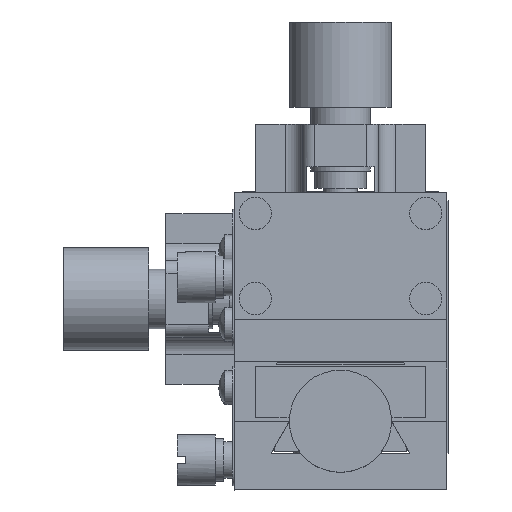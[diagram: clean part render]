
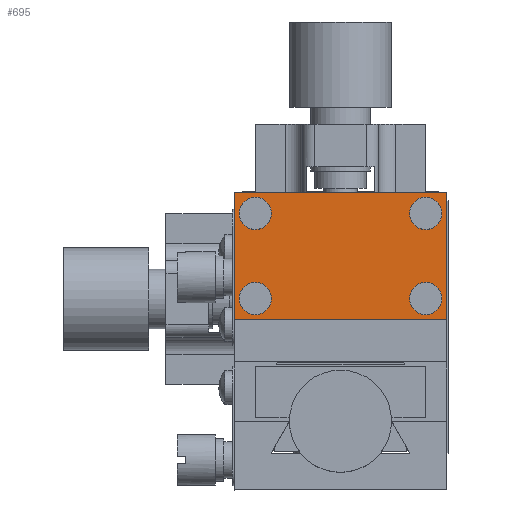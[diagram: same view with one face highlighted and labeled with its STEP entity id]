
A CAD part, top view. The second image highlights one B-rep face of the part: STEP entity #695.
In plain terms, the highlighted planar face has unit normal (0, 0, 1).
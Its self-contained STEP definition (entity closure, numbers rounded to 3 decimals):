
#695 = ADVANCED_FACE( '', ( #1752, #1753, #1754, #1755, #1756 ), #1757, .T. );
#1752 = FACE_BOUND( '', #3174, .T. );
#1753 = FACE_BOUND( '', #3175, .T. );
#1754 = FACE_BOUND( '', #3176, .T. );
#1755 = FACE_BOUND( '', #3177, .T. );
#1756 = FACE_OUTER_BOUND( '', #3178, .T. );
#1757 = PLANE( '', #3179 );
#3174 = EDGE_LOOP( '', ( #6130 ) );
#3175 = EDGE_LOOP( '', ( #6131 ) );
#3176 = EDGE_LOOP( '', ( #6132 ) );
#3177 = EDGE_LOOP( '', ( #6133 ) );
#3178 = EDGE_LOOP( '', ( #6134, #6135, #6136, #6137 ) );
#3179 = AXIS2_PLACEMENT_3D( '', #6138, #6139, #6140 );
#6130 = ORIENTED_EDGE( '', *, *, #8320, .F. );
#6131 = ORIENTED_EDGE( '', *, *, #8321, .F. );
#6132 = ORIENTED_EDGE( '', *, *, #8322, .F. );
#6133 = ORIENTED_EDGE( '', *, *, #8323, .F. );
#6134 = ORIENTED_EDGE( '', *, *, #8324, .F. );
#6135 = ORIENTED_EDGE( '', *, *, #8313, .F. );
#6136 = ORIENTED_EDGE( '', *, *, #8325, .F. );
#6137 = ORIENTED_EDGE( '', *, *, #8317, .F. );
#6138 = CARTESIAN_POINT( '', ( 128.906, -2.5, 35. ) );
#6139 = DIRECTION( '', ( 0., 0., 1. ) );
#6140 = DIRECTION( '', ( 0., 1., 0. ) );
#8313 = EDGE_CURVE( '', #9952, #9955, #9956, .T. );
#8317 = EDGE_CURVE( '', #9960, #9963, #9964, .T. );
#8320 = EDGE_CURVE( '', #9968, #9968, #9969, .T. );
#8321 = EDGE_CURVE( '', #9970, #9970, #9971, .T. );
#8322 = EDGE_CURVE( '', #9972, #9972, #9973, .T. );
#8323 = EDGE_CURVE( '', #9974, #9974, #9975, .T. );
#8324 = EDGE_CURVE( '', #9955, #9960, #9976, .T. );
#8325 = EDGE_CURVE( '', #9963, #9952, #9977, .T. );
#9952 = VERTEX_POINT( '', #12750 );
#9955 = VERTEX_POINT( '', #12754 );
#9956 = LINE( '', #12755, #12756 );
#9960 = VERTEX_POINT( '', #12762 );
#9963 = VERTEX_POINT( '', #12766 );
#9964 = LINE( '', #12767, #12768 );
#9968 = VERTEX_POINT( '', #12774 );
#9969 = CIRCLE( '', #12775, 1.9 );
#9970 = VERTEX_POINT( '', #12776 );
#9971 = CIRCLE( '', #12777, 1.9 );
#9972 = VERTEX_POINT( '', #12778 );
#9973 = CIRCLE( '', #12779, 1.9 );
#9974 = VERTEX_POINT( '', #12780 );
#9975 = CIRCLE( '', #12781, 1.9 );
#9976 = LINE( '', #12782, #12783 );
#9977 = LINE( '', #12784, #12785 );
#12750 = CARTESIAN_POINT( '', ( -12.5, 12.5, 35. ) );
#12754 = CARTESIAN_POINT( '', ( 12.5, 12.5, 35. ) );
#12755 = CARTESIAN_POINT( '', ( 0., 12.5, 35. ) );
#12756 = VECTOR( '', #15115, 1000. );
#12762 = CARTESIAN_POINT( '', ( 12.5, -2.5, 35. ) );
#12766 = CARTESIAN_POINT( '', ( -12.5, -2.5, 35. ) );
#12767 = CARTESIAN_POINT( '', ( 128.906, -2.5, 35. ) );
#12768 = VECTOR( '', #15119, 1000. );
#12774 = CARTESIAN_POINT( '', ( -10., 8.1, 35. ) );
#12775 = AXIS2_PLACEMENT_3D( '', #15122, #15123, #15124 );
#12776 = CARTESIAN_POINT( '', ( 10., 8.1, 35. ) );
#12777 = AXIS2_PLACEMENT_3D( '', #15125, #15126, #15127 );
#12778 = CARTESIAN_POINT( '', ( 10., -1.9, 35. ) );
#12779 = AXIS2_PLACEMENT_3D( '', #15128, #15129, #15130 );
#12780 = CARTESIAN_POINT( '', ( -10., -1.9, 35. ) );
#12781 = AXIS2_PLACEMENT_3D( '', #15131, #15132, #15133 );
#12782 = CARTESIAN_POINT( '', ( 12.5, -7.5, 35. ) );
#12783 = VECTOR( '', #15134, 1000. );
#12784 = CARTESIAN_POINT( '', ( -12.5, -7.5, 35. ) );
#12785 = VECTOR( '', #15135, 1000. );
#15115 = DIRECTION( '', ( 1., 0., 0. ) );
#15119 = DIRECTION( '', ( -1., 0., 0. ) );
#15122 = CARTESIAN_POINT( '', ( -10., 10., 35. ) );
#15123 = DIRECTION( '', ( 0., 0., 1. ) );
#15124 = DIRECTION( '', ( 0., -1., 0. ) );
#15125 = CARTESIAN_POINT( '', ( 10., 10., 35. ) );
#15126 = DIRECTION( '', ( 0., 0., 1. ) );
#15127 = DIRECTION( '', ( 0., -1., 0. ) );
#15128 = CARTESIAN_POINT( '', ( 10., 0., 35. ) );
#15129 = DIRECTION( '', ( 0., 0., 1. ) );
#15130 = DIRECTION( '', ( 0., -1., 0. ) );
#15131 = CARTESIAN_POINT( '', ( -10., 0., 35. ) );
#15132 = DIRECTION( '', ( 0., 0., 1. ) );
#15133 = DIRECTION( '', ( 0., -1., 0. ) );
#15134 = DIRECTION( '', ( 0., -1., 0. ) );
#15135 = DIRECTION( '', ( 0., 1., 0. ) );
